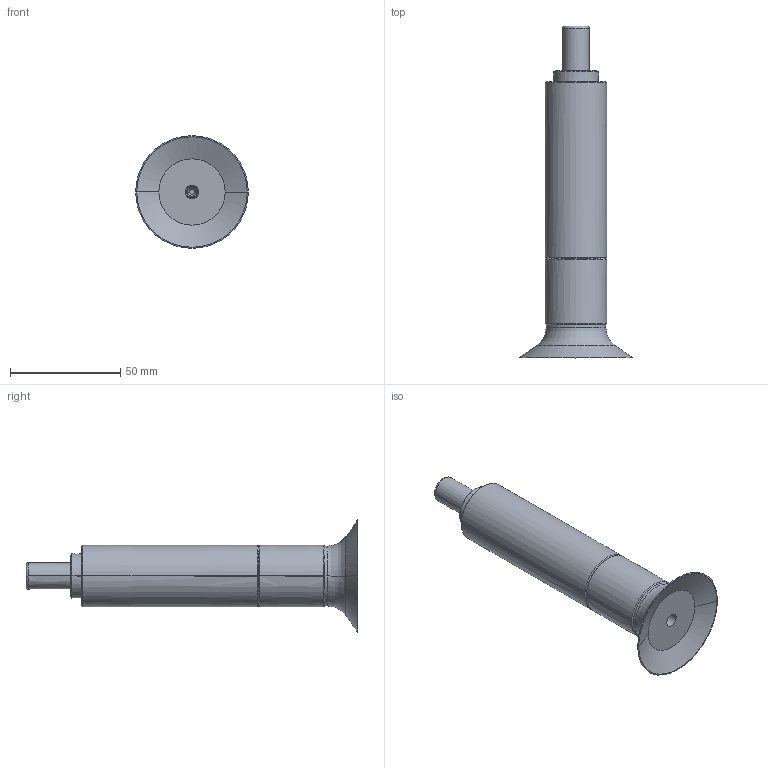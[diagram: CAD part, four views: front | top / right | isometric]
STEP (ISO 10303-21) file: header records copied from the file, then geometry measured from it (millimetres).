
FILE_DESCRIPTION((''),'2;1');
FILE_NAME('3D-NDGPAK50','2014-01-18T',('yfs-01'),('foxconn'),'PRO/ENGINEER BY PARAMETRIC TECHNOLOGY CORPORATION, 2007230','PRO/ENGINEER BY PARAMETRIC TECHNOLOGY CORPORATION, 2007230','');
FILE_SCHEMA(('CONFIG_CONTROL_DESIGN'));
Length unit declared in the file: millimetre
Products named in the file (1): 3D-NDGPAK50
Bounding box: 51 x 150.2 x 51 mm (x, y, z)
Surface area: 23970.7 mm2 (no closed solid volume)
Topology: 0 solids, 0 shells, 81 faces, 324 edges, 322 vertices
Faces by surface type: bspline 77, torus 4
Entity records: 8938 total; most frequent: CARTESIAN_POINT 5806, DIRECTION 530, TRIMMED_CURVE 424, VECTOR 326, LINE 326, DEFINITIONAL_REPRESENTATION 320, PCURVE 320, COMPOSITE_CURVE_SEGMENT 320
